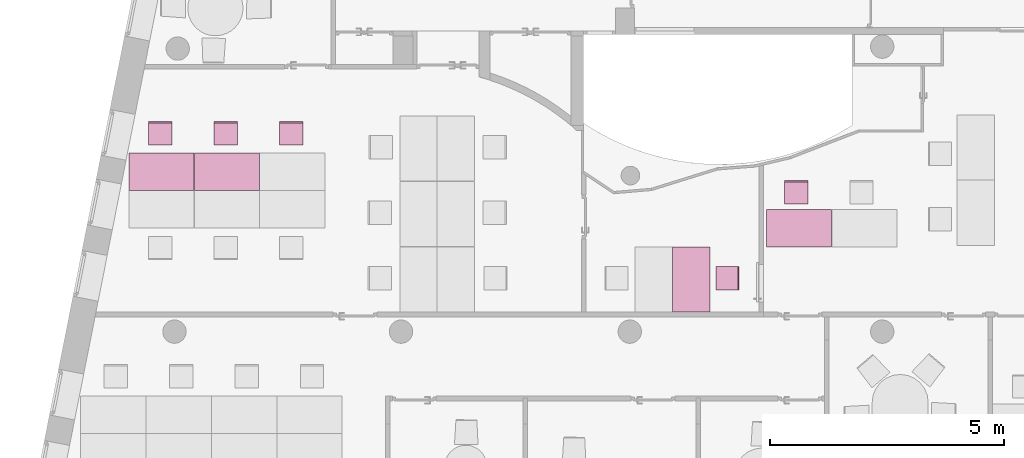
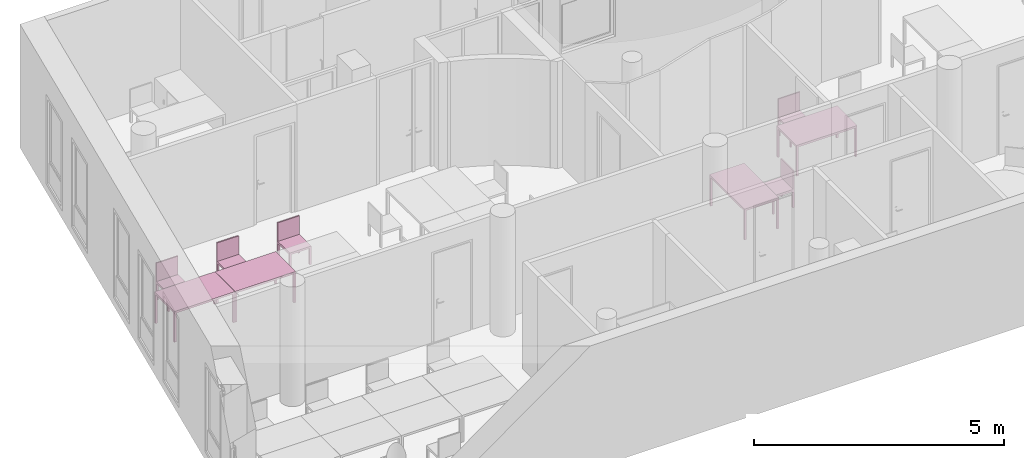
"""IFC4 building model written with IfcOpenShell, lengths in metres."""

from ifc_helpers import new_model, entity, si_unit, converted_unit, derived_unit, frame, origin, place, context, subcontext, project, spatial, faceted_brep, element, save


model = new_model("IFC4")

# Units and contexts
model_context = context("Model", 3, precision=1e-05, world=origin())
body_context = subcontext(model_context, "Body", "Model", "MODEL_VIEW")
ifc_project = project(units=[si_unit("LENGTHUNIT", "METRE"), si_unit("AREAUNIT", "SQUARE_METRE"), si_unit("VOLUMEUNIT", "CUBIC_METRE"), si_unit("MASSUNIT", "GRAM", prefix="KILO"), converted_unit("PLANEANGLEUNIT", "DEGREE", entity("IfcPlaneAngleMeasure", 0.0174532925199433), si_unit("PLANEANGLEUNIT", "RADIAN"), dimensions=[0, 0, 0, 0, 0, 0, 0]), derived_unit("THERMALTRANSMITTANCEUNIT", [(si_unit("POWERUNIT", "WATT"), 1), (si_unit("THERMODYNAMICTEMPERATUREUNIT", "KELVIN"), -1), (si_unit("LENGTHUNIT", "METRE"), -2)]), derived_unit("VOLUMETRICFLOWRATEUNIT", [(si_unit("LENGTHUNIT", "METRE"), 3), (converted_unit("TIMEUNIT", "hour", entity("IfcTimeMeasure", 3600.0), si_unit("TIMEUNIT", "SECOND"), dimensions=[0, 0, 1, 0, 0, 0, 0]), -1), (si_unit("LENGTHUNIT", "METRE"), -1)])], contexts=[model_context])

# Building, storeys
building_placement = place(None, origin())
building = spatial("IfcBuilding", under=ifc_project, at=building_placement, Name="HABITATGE PLURIFAMILIAR", CompositionType="ELEMENT")
storey_1_placement = place(building_placement, frame((0.0, 0.0, 9.26)))
storey_1 = spatial("IfcBuildingStorey", under=building, at=storey_1_placement, Name="PLANTA SEGONA", CompositionType="ELEMENT", Elevation=9.26)
storey_2_placement = place(storey_1_placement, frame((0.0, 0.0, 6.25)))
storey_2 = spatial("IfcBuildingStorey", under=storey_1, at=storey_2_placement, Name="NOU", CompositionType="PARTIAL")

# Furniture
furniture_1_placement = place(storey_2_placement, frame((401.412001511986, 20.8193908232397, -6.3499999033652)))
element("IfcFurniture", 1, at=furniture_1_placement, inside=storey_2, Name="Taula 140X80_P2", context=body_context, shape_type="Brep", body=[
    faceted_brep([(0.04375, 0.05, 0.0), (0.0, 0.05, 0.0), (0.0, 0.0, 0.0), (0.04375, 0.0, 0.0), (0.04375, 0.0, 0.7), (0.0, 0.0, 0.7), (0.0, 0.05, 0.7), (0.04375, 0.05, 0.7)], [[[0, 1, 2, 3]], [[4, 5, 6, 7]], [[3, 4, 7, 0]], [[2, 5, 4, 3]], [[1, 6, 5, 2]], [[0, 7, 6, 1]]], orient=[[False], [False], [False], [False], [False], [False]]),
    faceted_brep([(0.04375, 0.800069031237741, 0.0), (0.0, 0.800069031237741, 0.0), (0.0, 0.750069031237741, 0.0), (0.04375, 0.750069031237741, 0.0), (0.04375, 0.750069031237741, 0.7), (0.0, 0.750069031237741, 0.7), (0.0, 0.800069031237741, 0.7), (0.04375, 0.800069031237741, 0.7)], [[[0, 1, 2, 3]], [[4, 5, 6, 7]], [[3, 4, 7, 0]], [[2, 5, 4, 3]], [[1, 6, 5, 2]], [[0, 7, 6, 1]]], orient=[[False], [False], [False], [False], [False], [False]]),
    faceted_brep([(1.39732768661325, 0.800069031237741, 0.7), (0.0, 0.800069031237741, 0.7), (0.0, 0.0, 0.7), (1.39732768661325, 0.0, 0.7), (1.39732768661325, 0.0, 0.75), (0.0, 0.0, 0.75), (0.0, 0.800069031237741, 0.75), (1.39732768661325, 0.800069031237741, 0.75)], [[[0, 1, 2, 3]], [[4, 5, 6, 7]], [[3, 4, 7, 0]], [[2, 5, 4, 3]], [[1, 6, 5, 2]], [[0, 7, 6, 1]]], orient=[[False], [False], [False], [False], [False], [False]]),
    faceted_brep([(1.39732768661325, 0.05, 0.0), (1.35357768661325, 0.05, 0.0), (1.35357768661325, 0.0, 0.0), (1.39732768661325, 0.0, 0.0), (1.39732768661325, 0.0, 0.7), (1.35357768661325, 0.0, 0.7), (1.35357768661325, 0.05, 0.7), (1.39732768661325, 0.05, 0.7)], [[[0, 1, 2, 3]], [[4, 5, 6, 7]], [[3, 4, 7, 0]], [[2, 5, 4, 3]], [[1, 6, 5, 2]], [[0, 7, 6, 1]]], orient=[[False], [False], [False], [False], [False], [False]]),
    faceted_brep([(1.39732768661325, 0.800069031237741, 0.0), (1.35357768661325, 0.800069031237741, 0.0), (1.35357768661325, 0.750069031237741, 0.0), (1.39732768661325, 0.750069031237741, 0.0), (1.39732768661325, 0.750069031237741, 0.7), (1.35357768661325, 0.750069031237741, 0.7), (1.35357768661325, 0.800069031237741, 0.7), (1.39732768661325, 0.800069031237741, 0.7)], [[[0, 1, 2, 3]], [[4, 5, 6, 7]], [[3, 4, 7, 0]], [[2, 5, 4, 3]], [[1, 6, 5, 2]], [[0, 7, 6, 1]]], orient=[[False], [False], [False], [False], [False], [False]]),
])
furniture_2_placement = place(storey_2_placement, frame((400.01082241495, 20.8193908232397, -6.3499999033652)))
element("IfcFurniture", 2, at=furniture_2_placement, inside=storey_2, Name="Taula 140X80_P2", context=body_context, shape_type="Brep", body=[
    faceted_brep([(0.04375, 0.05, 0.0), (0.0, 0.05, 0.0), (0.0, 0.0, 0.0), (0.04375, 0.0, 0.0), (0.04375, 0.0, 0.7), (0.0, 0.0, 0.7), (0.0, 0.05, 0.7), (0.04375, 0.05, 0.7)], [[[0, 1, 2, 3]], [[4, 5, 6, 7]], [[3, 4, 7, 0]], [[2, 5, 4, 3]], [[1, 6, 5, 2]], [[0, 7, 6, 1]]], orient=[[False], [False], [False], [False], [False], [False]]),
    faceted_brep([(0.04375, 0.800069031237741, 0.0), (0.0, 0.800069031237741, 0.0), (0.0, 0.750069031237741, 0.0), (0.04375, 0.750069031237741, 0.0), (0.04375, 0.750069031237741, 0.7), (0.0, 0.750069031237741, 0.7), (0.0, 0.800069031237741, 0.7), (0.04375, 0.800069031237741, 0.7)], [[[0, 1, 2, 3]], [[4, 5, 6, 7]], [[3, 4, 7, 0]], [[2, 5, 4, 3]], [[1, 6, 5, 2]], [[0, 7, 6, 1]]], orient=[[False], [False], [False], [False], [False], [False]]),
    faceted_brep([(1.39732768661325, 0.800069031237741, 0.7), (0.0, 0.800069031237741, 0.7), (0.0, 0.0, 0.7), (1.39732768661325, 0.0, 0.7), (1.39732768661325, 0.0, 0.75), (0.0, 0.0, 0.75), (0.0, 0.800069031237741, 0.75), (1.39732768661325, 0.800069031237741, 0.75)], [[[0, 1, 2, 3]], [[4, 5, 6, 7]], [[3, 4, 7, 0]], [[2, 5, 4, 3]], [[1, 6, 5, 2]], [[0, 7, 6, 1]]], orient=[[False], [False], [False], [False], [False], [False]]),
    faceted_brep([(1.39732768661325, 0.05, 0.0), (1.35357768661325, 0.05, 0.0), (1.35357768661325, 0.0, 0.0), (1.39732768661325, 0.0, 0.0), (1.39732768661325, 0.0, 0.7), (1.35357768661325, 0.0, 0.7), (1.35357768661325, 0.05, 0.7), (1.39732768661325, 0.05, 0.7)], [[[0, 1, 2, 3]], [[4, 5, 6, 7]], [[3, 4, 7, 0]], [[2, 5, 4, 3]], [[1, 6, 5, 2]], [[0, 7, 6, 1]]], orient=[[False], [False], [False], [False], [False], [False]]),
    faceted_brep([(1.39732768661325, 0.800069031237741, 0.0), (1.35357768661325, 0.800069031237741, 0.0), (1.35357768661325, 0.750069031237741, 0.0), (1.39732768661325, 0.750069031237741, 0.0), (1.39732768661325, 0.750069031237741, 0.7), (1.35357768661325, 0.750069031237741, 0.7), (1.35357768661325, 0.800069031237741, 0.7), (1.39732768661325, 0.800069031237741, 0.7)], [[[0, 1, 2, 3]], [[4, 5, 6, 7]], [[3, 4, 7, 0]], [[2, 5, 4, 3]], [[1, 6, 5, 2]], [[0, 7, 6, 1]]], orient=[[False], [False], [False], [False], [False], [False]]),
])
furniture_3_placement = place(storey_2_placement, frame((400.432809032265, 21.7985756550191, -6.34505686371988)))
element("IfcFurniture", 3, at=furniture_3_placement, inside=storey_2, Name="Cadira d'Oficina_P2", context=body_context, shape_type="Brep", body=[
    faceted_brep([(0.5, 0.0, 0.4), (0.5, 0.500000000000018, 0.4), (0.0, 0.5, 0.4), (0.0, 0.0, 0.4), (0.5, 0.500000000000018, 0.45), (0.5, 0.0, 0.45), (0.0, 0.0, 0.45), (0.0, 0.5, 0.45)], [[[0, 1, 2, 3]], [[4, 5, 6, 7]], [[1, 0, 5, 4]], [[2, 1, 4, 7]], [[3, 2, 7, 6]], [[0, 3, 6, 5]]], orient=[[False], [False], [False], [False], [False], [False]]),
    faceted_brep([(0.0, 0.46, 0.0), (0.04, 0.46, 0.0), (0.04, 0.5, 0.0), (0.0, 0.5, 0.0), (0.04, 0.46, 0.4), (0.0, 0.46, 0.4), (0.0, 0.5, 0.4), (0.04, 0.5, 0.4)], [[[0, 1, 2, 3]], [[4, 5, 6, 7]], [[1, 0, 5, 4]], [[2, 1, 4, 7]], [[3, 2, 7, 6]], [[0, 3, 6, 5]]], orient=[[False], [False], [False], [False], [False], [False]]),
    faceted_brep([(0.0, 0.0, 0.0), (0.04, 0.0, 0.0), (0.04, 0.04, 0.0), (0.0, 0.04, 0.0), (0.04, 0.0, 0.4), (0.0, 0.0, 0.4), (0.0, 0.04, 0.4), (0.04, 0.04, 0.4)], [[[0, 1, 2, 3]], [[4, 5, 6, 7]], [[1, 0, 5, 4]], [[2, 1, 4, 7]], [[3, 2, 7, 6]], [[0, 3, 6, 5]]], orient=[[False], [False], [False], [False], [False], [False]]),
    faceted_brep([(0.46, 0.460000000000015, 0.0), (0.5, 0.460000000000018, 0.0), (0.5, 0.500000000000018, 0.0), (0.46, 0.500000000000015, 0.0), (0.5, 0.460000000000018, 0.4), (0.46, 0.460000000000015, 0.4), (0.46, 0.500000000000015, 0.4), (0.5, 0.500000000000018, 0.4)], [[[0, 1, 2, 3]], [[4, 5, 6, 7]], [[1, 0, 5, 4]], [[2, 1, 4, 7]], [[3, 2, 7, 6]], [[0, 3, 6, 5]]], orient=[[False], [False], [False], [False], [False], [False]]),
    faceted_brep([(0.46, 0.0, 0.0), (0.5, 0.0, 0.0), (0.5, 0.0400000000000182, 0.0), (0.46, 0.0400000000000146, 0.0), (0.5, 0.0, 0.4), (0.46, 0.0, 0.4), (0.46, 0.0400000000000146, 0.4), (0.5, 0.0400000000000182, 0.4)], [[[0, 1, 2, 3]], [[4, 5, 6, 7]], [[1, 0, 5, 4]], [[2, 1, 4, 7]], [[3, 2, 7, 6]], [[0, 3, 6, 5]]], orient=[[False], [False], [False], [False], [False], [False]]),
    faceted_brep([(0.0, 0.47, 0.45), (0.5, 0.470000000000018, 0.45), (0.5, 0.500000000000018, 0.45), (0.0, 0.5, 0.45), (0.5, 0.470000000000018, 0.9), (0.0, 0.47, 0.9), (0.0, 0.5, 0.9), (0.5, 0.500000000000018, 0.9)], [[[0, 1, 2, 3]], [[4, 5, 6, 7]], [[1, 0, 5, 4]], [[2, 1, 4, 7]], [[3, 2, 7, 6]], [[0, 3, 6, 5]]], orient=[[False], [False], [False], [False], [False], [False]]),
])
furniture_4_placement = place(storey_2_placement, frame((401.8339881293, 21.798575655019, -6.34505686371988)))
element("IfcFurniture", 4, at=furniture_4_placement, inside=storey_2, Name="Cadira d'Oficina_P2", context=body_context, shape_type="Brep", body=[
    faceted_brep([(0.5, 0.0, 0.4), (0.5, 0.500000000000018, 0.4), (0.0, 0.5, 0.4), (0.0, 0.0, 0.4), (0.5, 0.500000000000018, 0.45), (0.5, 0.0, 0.45), (0.0, 0.0, 0.45), (0.0, 0.5, 0.45)], [[[0, 1, 2, 3]], [[4, 5, 6, 7]], [[1, 0, 5, 4]], [[2, 1, 4, 7]], [[3, 2, 7, 6]], [[0, 3, 6, 5]]], orient=[[False], [False], [False], [False], [False], [False]]),
    faceted_brep([(0.0, 0.46, 0.0), (0.04, 0.46, 0.0), (0.04, 0.5, 0.0), (0.0, 0.5, 0.0), (0.04, 0.46, 0.4), (0.0, 0.46, 0.4), (0.0, 0.5, 0.4), (0.04, 0.5, 0.4)], [[[0, 1, 2, 3]], [[4, 5, 6, 7]], [[1, 0, 5, 4]], [[2, 1, 4, 7]], [[3, 2, 7, 6]], [[0, 3, 6, 5]]], orient=[[False], [False], [False], [False], [False], [False]]),
    faceted_brep([(0.0, 0.0, 0.0), (0.04, 0.0, 0.0), (0.04, 0.04, 0.0), (0.0, 0.04, 0.0), (0.04, 0.0, 0.4), (0.0, 0.0, 0.4), (0.0, 0.04, 0.4), (0.04, 0.04, 0.4)], [[[0, 1, 2, 3]], [[4, 5, 6, 7]], [[1, 0, 5, 4]], [[2, 1, 4, 7]], [[3, 2, 7, 6]], [[0, 3, 6, 5]]], orient=[[False], [False], [False], [False], [False], [False]]),
    faceted_brep([(0.46, 0.460000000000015, 0.0), (0.5, 0.460000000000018, 0.0), (0.5, 0.500000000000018, 0.0), (0.46, 0.500000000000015, 0.0), (0.5, 0.460000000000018, 0.4), (0.46, 0.460000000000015, 0.4), (0.46, 0.500000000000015, 0.4), (0.5, 0.500000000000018, 0.4)], [[[0, 1, 2, 3]], [[4, 5, 6, 7]], [[1, 0, 5, 4]], [[2, 1, 4, 7]], [[3, 2, 7, 6]], [[0, 3, 6, 5]]], orient=[[False], [False], [False], [False], [False], [False]]),
    faceted_brep([(0.46, 0.0, 0.0), (0.5, 0.0, 0.0), (0.5, 0.0400000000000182, 0.0), (0.46, 0.0400000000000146, 0.0), (0.5, 0.0, 0.4), (0.46, 0.0, 0.4), (0.46, 0.0400000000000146, 0.4), (0.5, 0.0400000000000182, 0.4)], [[[0, 1, 2, 3]], [[4, 5, 6, 7]], [[1, 0, 5, 4]], [[2, 1, 4, 7]], [[3, 2, 7, 6]], [[0, 3, 6, 5]]], orient=[[False], [False], [False], [False], [False], [False]]),
    faceted_brep([(0.0, 0.47, 0.45), (0.5, 0.470000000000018, 0.45), (0.5, 0.500000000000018, 0.45), (0.0, 0.5, 0.45), (0.5, 0.470000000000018, 0.9), (0.0, 0.47, 0.9), (0.0, 0.5, 0.9), (0.5, 0.500000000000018, 0.9)], [[[0, 1, 2, 3]], [[4, 5, 6, 7]], [[1, 0, 5, 4]], [[2, 1, 4, 7]], [[3, 2, 7, 6]], [[0, 3, 6, 5]]], orient=[[False], [False], [False], [False], [False], [False]]),
])
furniture_5_placement = place(storey_2_placement, frame((403.2339881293, 21.798575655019, -6.34505686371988)))
element("IfcFurniture", 5, at=furniture_5_placement, inside=storey_2, Name="Cadira d'Oficina_P2", context=body_context, shape_type="Brep", body=[
    faceted_brep([(0.5, 0.0, 0.4), (0.5, 0.500000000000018, 0.4), (0.0, 0.5, 0.4), (0.0, 0.0, 0.4), (0.5, 0.500000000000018, 0.45), (0.5, 0.0, 0.45), (0.0, 0.0, 0.45), (0.0, 0.5, 0.45)], [[[0, 1, 2, 3]], [[4, 5, 6, 7]], [[1, 0, 5, 4]], [[2, 1, 4, 7]], [[3, 2, 7, 6]], [[0, 3, 6, 5]]], orient=[[False], [False], [False], [False], [False], [False]]),
    faceted_brep([(0.0, 0.46, 0.0), (0.04, 0.46, 0.0), (0.04, 0.5, 0.0), (0.0, 0.5, 0.0), (0.04, 0.46, 0.4), (0.0, 0.46, 0.4), (0.0, 0.5, 0.4), (0.04, 0.5, 0.4)], [[[0, 1, 2, 3]], [[4, 5, 6, 7]], [[1, 0, 5, 4]], [[2, 1, 4, 7]], [[3, 2, 7, 6]], [[0, 3, 6, 5]]], orient=[[False], [False], [False], [False], [False], [False]]),
    faceted_brep([(0.0, 0.0, 0.0), (0.04, 0.0, 0.0), (0.04, 0.04, 0.0), (0.0, 0.04, 0.0), (0.04, 0.0, 0.4), (0.0, 0.0, 0.4), (0.0, 0.04, 0.4), (0.04, 0.04, 0.4)], [[[0, 1, 2, 3]], [[4, 5, 6, 7]], [[1, 0, 5, 4]], [[2, 1, 4, 7]], [[3, 2, 7, 6]], [[0, 3, 6, 5]]], orient=[[False], [False], [False], [False], [False], [False]]),
    faceted_brep([(0.46, 0.460000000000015, 0.0), (0.5, 0.460000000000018, 0.0), (0.5, 0.500000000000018, 0.0), (0.46, 0.500000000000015, 0.0), (0.5, 0.460000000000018, 0.4), (0.46, 0.460000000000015, 0.4), (0.46, 0.500000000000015, 0.4), (0.5, 0.500000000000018, 0.4)], [[[0, 1, 2, 3]], [[4, 5, 6, 7]], [[1, 0, 5, 4]], [[2, 1, 4, 7]], [[3, 2, 7, 6]], [[0, 3, 6, 5]]], orient=[[False], [False], [False], [False], [False], [False]]),
    faceted_brep([(0.46, 0.0, 0.0), (0.5, 0.0, 0.0), (0.5, 0.0400000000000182, 0.0), (0.46, 0.0400000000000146, 0.0), (0.5, 0.0, 0.4), (0.46, 0.0, 0.4), (0.46, 0.0400000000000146, 0.4), (0.5, 0.0400000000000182, 0.4)], [[[0, 1, 2, 3]], [[4, 5, 6, 7]], [[1, 0, 5, 4]], [[2, 1, 4, 7]], [[3, 2, 7, 6]], [[0, 3, 6, 5]]], orient=[[False], [False], [False], [False], [False], [False]]),
    faceted_brep([(0.0, 0.47, 0.45), (0.5, 0.470000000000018, 0.45), (0.5, 0.500000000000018, 0.45), (0.0, 0.5, 0.45), (0.5, 0.470000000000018, 0.9), (0.0, 0.47, 0.9), (0.0, 0.5, 0.9), (0.5, 0.500000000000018, 0.9)], [[[0, 1, 2, 3]], [[4, 5, 6, 7]], [[1, 0, 5, 4]], [[2, 1, 4, 7]], [[3, 2, 7, 6]], [[0, 3, 6, 5]]], orient=[[False], [False], [False], [False], [False], [False]]),
])
furniture_6_placement = place(storey_2_placement, frame((412.576238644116, 18.6919879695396, -6.34505686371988)))
element("IfcFurniture", 6, at=furniture_6_placement, inside=storey_2, Name="Cadira d'Oficina_P2", context=body_context, shape_type="Brep", body=[
    faceted_brep([(0.0, 0.0, 0.4), (0.5, 0.0, 0.4), (0.5, 0.5, 0.4), (0.0, 0.5, 0.4), (0.5, 0.0, 0.45), (0.0, 0.0, 0.45), (0.0, 0.5, 0.45), (0.5, 0.5, 0.45)], [[[0, 1, 2, 3]], [[4, 5, 6, 7]], [[1, 0, 5, 4]], [[2, 1, 4, 7]], [[3, 2, 7, 6]], [[0, 3, 6, 5]]], orient=[[False], [False], [False], [False], [False], [False]]),
    faceted_brep([(0.46, 0.5, 0.0), (0.46, 0.46, 0.0), (0.5, 0.46, 0.0), (0.5, 0.5, 0.0), (0.46, 0.46, 0.4), (0.46, 0.5, 0.4), (0.5, 0.5, 0.4), (0.5, 0.46, 0.4)], [[[0, 1, 2, 3]], [[4, 5, 6, 7]], [[1, 0, 5, 4]], [[2, 1, 4, 7]], [[3, 2, 7, 6]], [[0, 3, 6, 5]]], orient=[[False], [False], [False], [False], [False], [False]]),
    faceted_brep([(0.0, 0.5, 0.0), (0.0, 0.46, 0.0), (0.04, 0.46, 0.0), (0.04, 0.5, 0.0), (0.0, 0.46, 0.4), (0.0, 0.5, 0.4), (0.04, 0.5, 0.4), (0.04, 0.46, 0.4)], [[[0, 1, 2, 3]], [[4, 5, 6, 7]], [[1, 0, 5, 4]], [[2, 1, 4, 7]], [[3, 2, 7, 6]], [[0, 3, 6, 5]]], orient=[[False], [False], [False], [False], [False], [False]]),
    faceted_brep([(0.46, 0.04, 0.0), (0.46, 0.0, 0.0), (0.5, 0.0, 0.0), (0.5, 0.04, 0.0), (0.46, 0.0, 0.4), (0.46, 0.04, 0.4), (0.5, 0.04, 0.4), (0.5, 0.0, 0.4)], [[[0, 1, 2, 3]], [[4, 5, 6, 7]], [[1, 0, 5, 4]], [[2, 1, 4, 7]], [[3, 2, 7, 6]], [[0, 3, 6, 5]]], orient=[[False], [False], [False], [False], [False], [False]]),
    faceted_brep([(0.0, 0.04, 0.0), (0.0, 0.0, 0.0), (0.04, 0.0, 0.0), (0.04, 0.04, 0.0), (0.0, 0.0, 0.4), (0.0, 0.04, 0.4), (0.04, 0.04, 0.4), (0.04, 0.0, 0.4)], [[[0, 1, 2, 3]], [[4, 5, 6, 7]], [[1, 0, 5, 4]], [[2, 1, 4, 7]], [[3, 2, 7, 6]], [[0, 3, 6, 5]]], orient=[[False], [False], [False], [False], [False], [False]]),
    faceted_brep([(0.47, 0.5, 0.45), (0.47, 0.0, 0.45), (0.5, 0.0, 0.45), (0.5, 0.5, 0.45), (0.47, 0.0, 0.9), (0.47, 0.5, 0.9), (0.5, 0.5, 0.9), (0.5, 0.0, 0.9)], [[[0, 1, 2, 3]], [[4, 5, 6, 7]], [[1, 0, 5, 4]], [[2, 1, 4, 7]], [[3, 2, 7, 6]], [[0, 3, 6, 5]]], orient=[[False], [False], [False], [False], [False], [False]]),
])
furniture_7_placement = place(storey_2_placement, frame((414.044450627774, 20.5358000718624, -6.34505686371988)))
element("IfcFurniture", 7, at=furniture_7_placement, inside=storey_2, Name="Cadira d'Oficina_P2", context=body_context, shape_type="Brep", body=[
    faceted_brep([(0.5, 0.0, 0.4), (0.5, 0.500000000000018, 0.4), (0.0, 0.5, 0.4), (0.0, 0.0, 0.4), (0.5, 0.500000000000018, 0.45), (0.5, 0.0, 0.45), (0.0, 0.0, 0.45), (0.0, 0.5, 0.45)], [[[0, 1, 2, 3]], [[4, 5, 6, 7]], [[1, 0, 5, 4]], [[2, 1, 4, 7]], [[3, 2, 7, 6]], [[0, 3, 6, 5]]], orient=[[False], [False], [False], [False], [False], [False]]),
    faceted_brep([(0.0, 0.46, 0.0), (0.04, 0.46, 0.0), (0.04, 0.5, 0.0), (0.0, 0.5, 0.0), (0.04, 0.46, 0.4), (0.0, 0.46, 0.4), (0.0, 0.5, 0.4), (0.04, 0.5, 0.4)], [[[0, 1, 2, 3]], [[4, 5, 6, 7]], [[1, 0, 5, 4]], [[2, 1, 4, 7]], [[3, 2, 7, 6]], [[0, 3, 6, 5]]], orient=[[False], [False], [False], [False], [False], [False]]),
    faceted_brep([(0.0, 0.0, 0.0), (0.04, 0.0, 0.0), (0.04, 0.04, 0.0), (0.0, 0.04, 0.0), (0.04, 0.0, 0.4), (0.0, 0.0, 0.4), (0.0, 0.04, 0.4), (0.04, 0.04, 0.4)], [[[0, 1, 2, 3]], [[4, 5, 6, 7]], [[1, 0, 5, 4]], [[2, 1, 4, 7]], [[3, 2, 7, 6]], [[0, 3, 6, 5]]], orient=[[False], [False], [False], [False], [False], [False]]),
    faceted_brep([(0.46, 0.460000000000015, 0.0), (0.5, 0.460000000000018, 0.0), (0.5, 0.500000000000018, 0.0), (0.46, 0.500000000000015, 0.0), (0.5, 0.460000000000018, 0.4), (0.46, 0.460000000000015, 0.4), (0.46, 0.500000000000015, 0.4), (0.5, 0.500000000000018, 0.4)], [[[0, 1, 2, 3]], [[4, 5, 6, 7]], [[1, 0, 5, 4]], [[2, 1, 4, 7]], [[3, 2, 7, 6]], [[0, 3, 6, 5]]], orient=[[False], [False], [False], [False], [False], [False]]),
    faceted_brep([(0.46, 0.0, 0.0), (0.5, 0.0, 0.0), (0.5, 0.0400000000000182, 0.0), (0.46, 0.0400000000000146, 0.0), (0.5, 0.0, 0.4), (0.46, 0.0, 0.4), (0.46, 0.0400000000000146, 0.4), (0.5, 0.0400000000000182, 0.4)], [[[0, 1, 2, 3]], [[4, 5, 6, 7]], [[1, 0, 5, 4]], [[2, 1, 4, 7]], [[3, 2, 7, 6]], [[0, 3, 6, 5]]], orient=[[False], [False], [False], [False], [False], [False]]),
    faceted_brep([(0.0, 0.47, 0.45), (0.5, 0.470000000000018, 0.45), (0.5, 0.500000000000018, 0.45), (0.0, 0.5, 0.45), (0.5, 0.470000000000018, 0.9), (0.0, 0.47, 0.9), (0.0, 0.5, 0.9), (0.5, 0.500000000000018, 0.9)], [[[0, 1, 2, 3]], [[4, 5, 6, 7]], [[1, 0, 5, 4]], [[2, 1, 4, 7]], [[3, 2, 7, 6]], [[0, 3, 6, 5]]], orient=[[False], [False], [False], [False], [False], [False]]),
])
furniture_8_placement = place(storey_2_placement, frame((411.647053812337, 18.2166469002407, -6.3499999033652)))
element("IfcFurniture", 8, at=furniture_8_placement, inside=storey_2, Name="Taula 140X80_P2", context=body_context, shape_type="Brep", body=[
    faceted_brep([(0.05, 1.35357768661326, 0.0), (0.05, 1.39732768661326, 0.0), (0.0, 1.39732768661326, 0.0), (0.0, 1.35357768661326, 0.0), (0.0, 1.35357768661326, 0.7), (0.0, 1.39732768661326, 0.7), (0.05, 1.39732768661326, 0.7), (0.05, 1.35357768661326, 0.7)], [[[0, 1, 2, 3]], [[4, 5, 6, 7]], [[3, 4, 7, 0]], [[2, 5, 4, 3]], [[1, 6, 5, 2]], [[0, 7, 6, 1]]], orient=[[False], [False], [False], [False], [False], [False]]),
    faceted_brep([(0.800069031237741, 1.35357768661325, 0.0), (0.800069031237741, 1.39732768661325, 0.0), (0.750069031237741, 1.39732768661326, 0.0), (0.750069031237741, 1.35357768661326, 0.0), (0.750069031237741, 1.35357768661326, 0.7), (0.750069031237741, 1.39732768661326, 0.7), (0.800069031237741, 1.39732768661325, 0.7), (0.800069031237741, 1.35357768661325, 0.7)], [[[0, 1, 2, 3]], [[4, 5, 6, 7]], [[3, 4, 7, 0]], [[2, 5, 4, 3]], [[1, 6, 5, 2]], [[0, 7, 6, 1]]], orient=[[False], [False], [False], [False], [False], [False]]),
    faceted_brep([(0.800069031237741, 0.0, 0.7), (0.800069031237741, 1.39732768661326, 0.7), (0.0, 1.39732768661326, 0.7), (0.0, 0.0, 0.7), (0.0, 0.0, 0.75), (0.0, 1.39732768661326, 0.75), (0.800069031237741, 1.39732768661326, 0.75), (0.800069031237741, 0.0, 0.75)], [[[0, 1, 2, 3]], [[4, 5, 6, 7]], [[3, 4, 7, 0]], [[2, 5, 4, 3]], [[1, 6, 5, 2]], [[0, 7, 6, 1]]], orient=[[False], [False], [False], [False], [False], [False]]),
    faceted_brep([(0.05, 0.0, 0.0), (0.05, 0.0437500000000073, 0.0), (0.0, 0.0437500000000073, 0.0), (0.0, 0.0, 0.0), (0.0, 0.0, 0.7), (0.0, 0.0437500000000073, 0.7), (0.05, 0.0437500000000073, 0.7), (0.05, 0.0, 0.7)], [[[0, 1, 2, 3]], [[4, 5, 6, 7]], [[3, 4, 7, 0]], [[2, 5, 4, 3]], [[1, 6, 5, 2]], [[0, 7, 6, 1]]], orient=[[False], [False], [False], [False], [False], [False]]),
    faceted_brep([(0.800069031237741, 0.0, 0.0), (0.800069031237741, 0.04375, 0.0), (0.750069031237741, 0.04375, 0.0), (0.750069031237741, 0.0, 0.0), (0.750069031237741, 0.0, 0.7), (0.750069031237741, 0.04375, 0.7), (0.800069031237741, 0.04375, 0.7), (0.800069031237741, 0.0, 0.7)], [[[0, 1, 2, 3]], [[4, 5, 6, 7]], [[3, 4, 7, 0]], [[2, 5, 4, 3]], [[1, 6, 5, 2]], [[0, 7, 6, 1]]], orient=[[False], [False], [False], [False], [False], [False]]),
])
furniture_9_placement = place(storey_2_placement, frame((413.658444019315, 19.6152143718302, -6.3499999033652)))
element("IfcFurniture", 9, at=furniture_9_placement, inside=storey_2, Name="Taula 140X80_P2", context=body_context, shape_type="Brep", body=[
    faceted_brep([(0.04375, 0.05, 0.0), (0.0, 0.05, 0.0), (0.0, 0.0, 0.0), (0.04375, 0.0, 0.0), (0.04375, 0.0, 0.7), (0.0, 0.0, 0.7), (0.0, 0.05, 0.7), (0.04375, 0.05, 0.7)], [[[0, 1, 2, 3]], [[4, 5, 6, 7]], [[3, 4, 7, 0]], [[2, 5, 4, 3]], [[1, 6, 5, 2]], [[0, 7, 6, 1]]], orient=[[False], [False], [False], [False], [False], [False]]),
    faceted_brep([(0.04375, 0.800069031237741, 0.0), (0.0, 0.800069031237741, 0.0), (0.0, 0.750069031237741, 0.0), (0.04375, 0.750069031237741, 0.0), (0.04375, 0.750069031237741, 0.7), (0.0, 0.750069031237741, 0.7), (0.0, 0.800069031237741, 0.7), (0.04375, 0.800069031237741, 0.7)], [[[0, 1, 2, 3]], [[4, 5, 6, 7]], [[3, 4, 7, 0]], [[2, 5, 4, 3]], [[1, 6, 5, 2]], [[0, 7, 6, 1]]], orient=[[False], [False], [False], [False], [False], [False]]),
    faceted_brep([(1.39732768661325, 0.800069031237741, 0.7), (0.0, 0.800069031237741, 0.7), (0.0, 0.0, 0.7), (1.39732768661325, 0.0, 0.7), (1.39732768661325, 0.0, 0.75), (0.0, 0.0, 0.75), (0.0, 0.800069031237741, 0.75), (1.39732768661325, 0.800069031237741, 0.75)], [[[0, 1, 2, 3]], [[4, 5, 6, 7]], [[3, 4, 7, 0]], [[2, 5, 4, 3]], [[1, 6, 5, 2]], [[0, 7, 6, 1]]], orient=[[False], [False], [False], [False], [False], [False]]),
    faceted_brep([(1.39732768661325, 0.05, 0.0), (1.35357768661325, 0.05, 0.0), (1.35357768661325, 0.0, 0.0), (1.39732768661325, 0.0, 0.0), (1.39732768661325, 0.0, 0.7), (1.35357768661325, 0.0, 0.7), (1.35357768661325, 0.05, 0.7), (1.39732768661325, 0.05, 0.7)], [[[0, 1, 2, 3]], [[4, 5, 6, 7]], [[3, 4, 7, 0]], [[2, 5, 4, 3]], [[1, 6, 5, 2]], [[0, 7, 6, 1]]], orient=[[False], [False], [False], [False], [False], [False]]),
    faceted_brep([(1.39732768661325, 0.800069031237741, 0.0), (1.35357768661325, 0.800069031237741, 0.0), (1.35357768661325, 0.750069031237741, 0.0), (1.39732768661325, 0.750069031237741, 0.0), (1.39732768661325, 0.750069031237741, 0.7), (1.35357768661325, 0.750069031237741, 0.7), (1.35357768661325, 0.800069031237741, 0.7), (1.39732768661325, 0.800069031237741, 0.7)], [[[0, 1, 2, 3]], [[4, 5, 6, 7]], [[3, 4, 7, 0]], [[2, 5, 4, 3]], [[1, 6, 5, 2]], [[0, 7, 6, 1]]], orient=[[False], [False], [False], [False], [False], [False]]),
])

save(model, "model.ifc")
